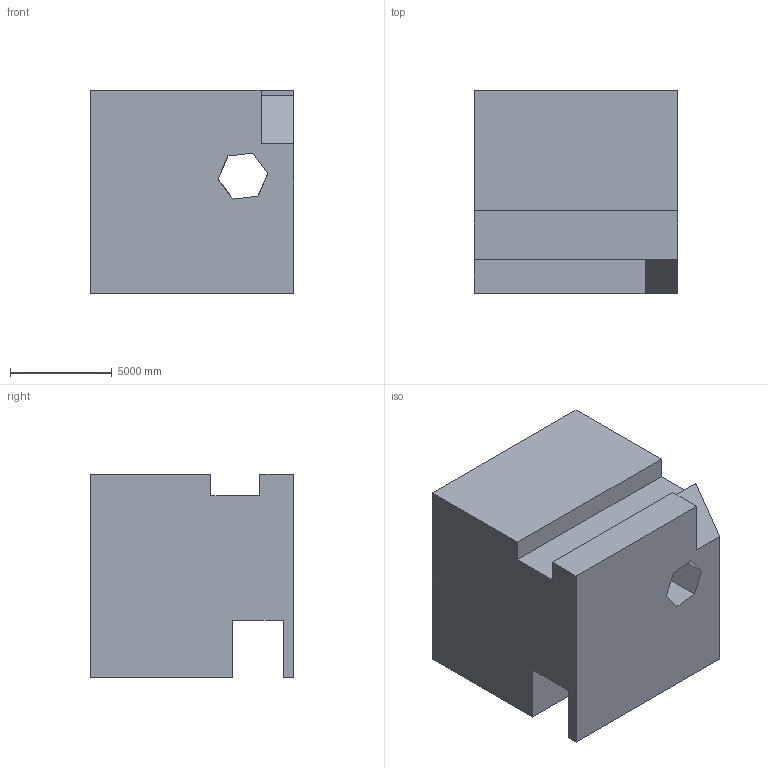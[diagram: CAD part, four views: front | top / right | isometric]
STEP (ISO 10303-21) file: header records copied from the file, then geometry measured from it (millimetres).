
FILE_DESCRIPTION (( 'STEP AP203' ), '1' );
FILE_NAME ('1540.STEP', '2022-08-18T15:10:40', ( 'user' ), ( '' ), 'SwSTEP 2.0', 'SolidWorks 2021', '' );
FILE_SCHEMA (( 'CONFIG_CONTROL_DESIGN' ));
Length unit declared in the file: centimetre
Products named in the file (1): 1540
Bounding box: 10000 x 10000 x 10000 mm (x, y, z)
Volume: 840370543750.3 mm3; surface area: 743215387.4 mm2
Topology: 1 solids, 1 shells, 40 faces, 117 edges, 78 vertices
Faces by surface type: plane 40
Entity records: 1386 total; most frequent: CARTESIAN_POINT 236, ORIENTED_EDGE 234, DIRECTION 199, EDGE_CURVE 117, LINE 117, VECTOR 117, VERTEX_POINT 78, EDGE_LOOP 43
